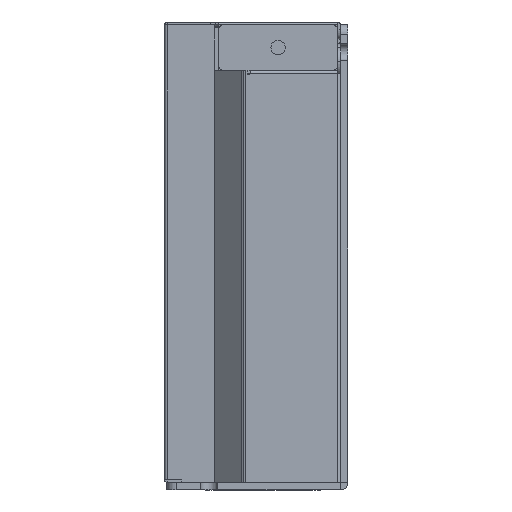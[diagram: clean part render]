
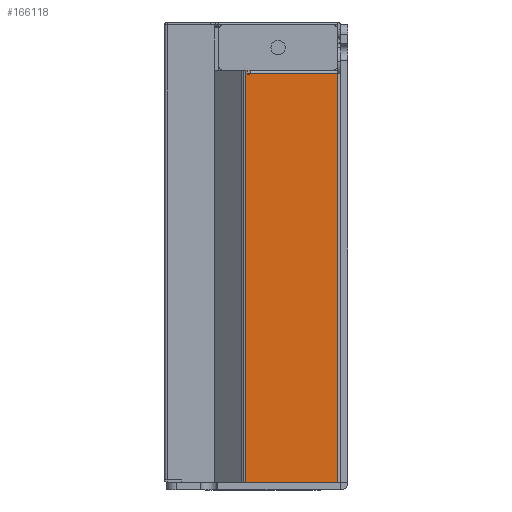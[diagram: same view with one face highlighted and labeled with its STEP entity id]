
A CAD part, left-side view. The second image highlights one B-rep face of the part: STEP entity #166118.
In plain terms, the highlighted planar face has unit normal (-1, 0, 0).
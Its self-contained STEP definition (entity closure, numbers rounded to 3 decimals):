
#97993=DIRECTION('',(0.,-1.,0.));
#97994=VECTOR('',#97993,85.5);
#97995=CARTESIAN_POINT('',(-87.45,47.65,-16.849));
#97996=LINE('',#97995,#97994);
#98015=DIRECTION('',(0.,0.,1.));
#98016=VECTOR('',#98015,19.051);
#98017=CARTESIAN_POINT('',(-87.45,47.65,-35.9));
#98018=LINE('',#98017,#98016);
#98022=DIRECTION('',(0.,0.,-1.));
#98023=VECTOR('',#98022,0.3);
#98024=CARTESIAN_POINT('',(-87.45,-37.85,-16.849));
#98025=LINE('',#98024,#98023);
#98029=DIRECTION('',(0.,1.,0.));
#98030=VECTOR('',#98029,0.6);
#98031=CARTESIAN_POINT('',(-87.45,-37.85,-17.149));
#98032=LINE('',#98031,#98030);
#98036=CARTESIAN_POINT('',(-87.45,-37.25,-17.449));
#98037=DIRECTION('',(-1.,0.,0.));
#98038=DIRECTION('',(0.,0.,1.));
#98039=AXIS2_PLACEMENT_3D('',#98036,#98037,#98038);
#98052=DIRECTION('',(0.,0.,-1.));
#98053=VECTOR('',#98052,18.151);
#98054=CARTESIAN_POINT('',(-87.45,-37.25,-17.749));
#98055=LINE('',#98054,#98053);
#98450=DIRECTION('',(0.,-1.,0.));
#98451=VECTOR('',#98450,84.9);
#98452=CARTESIAN_POINT('',(-87.45,47.65,-35.9));
#98453=LINE('',#98452,#98451);
#147126=CARTESIAN_POINT('',(-87.45,47.65,-35.9));
#147127=CARTESIAN_POINT('',(-87.45,47.65,-16.849));
#147128=VERTEX_POINT('',#147126);
#147129=VERTEX_POINT('',#147127);
#147148=CARTESIAN_POINT('',(-87.45,-37.85,-16.849));
#147149=VERTEX_POINT('',#147148);
#147152=CARTESIAN_POINT('',(-87.45,-37.85,-17.149));
#147153=CARTESIAN_POINT('',(-87.45,-37.25,-17.149));
#147154=VERTEX_POINT('',#147152);
#147155=VERTEX_POINT('',#147153);
#147156=CARTESIAN_POINT('',(-87.45,-37.25,-17.749));
#147157=VERTEX_POINT('',#147156);
#147170=CARTESIAN_POINT('',(-87.45,-37.25,-35.9));
#147171=VERTEX_POINT('',#147170);
#166099=CARTESIAN_POINT('',(-87.45,25.102,-16.6));
#166100=DIRECTION('',(1.,0.,0.));
#166101=DIRECTION('',(0.,-1.,0.));
#166102=AXIS2_PLACEMENT_3D('',#166099,#166100,#166101);
#166103=PLANE('',#166102);
#166105=ORIENTED_EDGE('',*,*,#166104,.T.);
#166107=ORIENTED_EDGE('',*,*,#166106,.F.);
#166109=ORIENTED_EDGE('',*,*,#166108,.T.);
#166110=ORIENTED_EDGE('',*,*,#166092,.T.);
#166111=ORIENTED_EDGE('',*,*,#165996,.T.);
#166113=ORIENTED_EDGE('',*,*,#166112,.T.);
#166115=ORIENTED_EDGE('',*,*,#166114,.T.);
#166116=EDGE_LOOP('',(#166105,#166107,#166109,#166110,#166111,#166113,#166115));
#166117=FACE_OUTER_BOUND('',#166116,.F.);
#98040=CIRCLE('',#98039,0.3);
#165996=EDGE_CURVE('',#147149,#147154,#98025,.T.);
#166092=EDGE_CURVE('',#147129,#147149,#97996,.T.);
#166104=EDGE_CURVE('',#147157,#147171,#98055,.T.);
#166106=EDGE_CURVE('',#147128,#147171,#98453,.T.);
#166108=EDGE_CURVE('',#147128,#147129,#98018,.T.);
#166112=EDGE_CURVE('',#147154,#147155,#98032,.T.);
#166114=EDGE_CURVE('',#147155,#147157,#98040,.T.);
#166118=ADVANCED_FACE('',(#166117),#166103,.F.);
